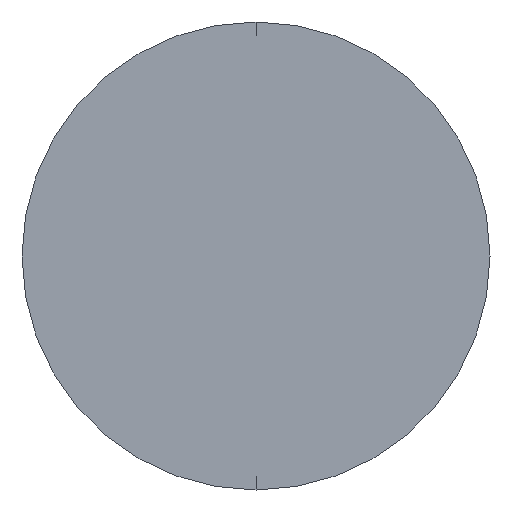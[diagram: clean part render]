
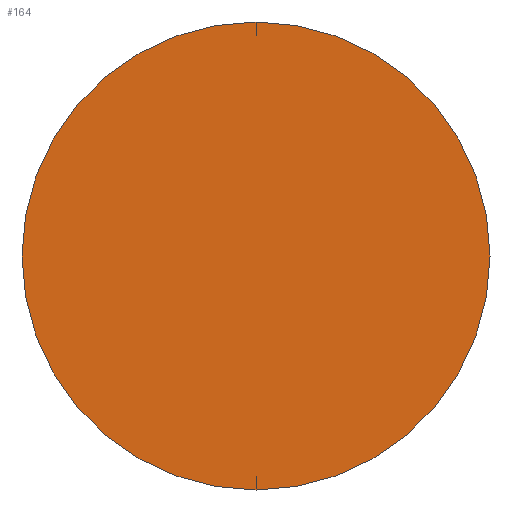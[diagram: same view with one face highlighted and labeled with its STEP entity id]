
A CAD part, left-side view. The second image highlights one B-rep face of the part: STEP entity #164.
In plain terms, the highlighted planar face has unit normal (-1, 0, 0).
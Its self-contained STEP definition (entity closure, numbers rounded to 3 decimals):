
#7 = CIRCLE ( 'NONE', #253, 1.4 ) ;
#25 = EDGE_LOOP ( 'NONE', ( #78, #207 ) ) ;
#27 = FACE_OUTER_BOUND ( 'NONE', #25, .T. ) ;
#40 = DIRECTION ( 'NONE',  ( 1., 0., 0. ) ) ;
#42 = VERTEX_POINT ( 'NONE', #128 ) ;
#59 = DIRECTION ( 'NONE',  ( -1., 0., 0. ) ) ;
#70 = CIRCLE ( 'NONE', #239, 1.4 ) ;
#71 = DIRECTION ( 'NONE',  ( 0., 0., 1. ) ) ;
#77 = PLANE ( 'NONE',  #244 ) ;
#78 = ORIENTED_EDGE ( 'NONE', *, *, #190, .T. ) ;
#110 = EDGE_CURVE ( 'NONE', #42, #204, #7, .T. ) ;
#128 = CARTESIAN_POINT ( 'NONE',  ( 0., 0., -1.4 ) ) ;
#132 = DIRECTION ( 'NONE',  ( 0., 0., 1. ) ) ;
#151 = DIRECTION ( 'NONE',  ( 0., 0., -1. ) ) ;
#157 = CARTESIAN_POINT ( 'NONE',  ( 0., 0., 1.4 ) ) ;
#163 = CARTESIAN_POINT ( 'NONE',  ( 0., 0., 0. ) ) ;
#164 = ADVANCED_FACE ( 'NONE', ( #27 ), #77, .F. ) ;
#178 = CARTESIAN_POINT ( 'NONE',  ( 0., 0., 0. ) ) ;
#181 = DIRECTION ( 'NONE',  ( -1., 0., 0. ) ) ;
#190 = EDGE_CURVE ( 'NONE', #204, #42, #70, .T. ) ;
#204 = VERTEX_POINT ( 'NONE', #157 ) ;
#207 = ORIENTED_EDGE ( 'NONE', *, *, #110, .T. ) ;
#233 = CARTESIAN_POINT ( 'NONE',  ( 0., 0., 0. ) ) ;
#239 = AXIS2_PLACEMENT_3D ( 'NONE', #233, #181, #132 ) ;
#244 = AXIS2_PLACEMENT_3D ( 'NONE', #163, #40, #151 ) ;
#253 = AXIS2_PLACEMENT_3D ( 'NONE', #178, #59, #71 ) ;
